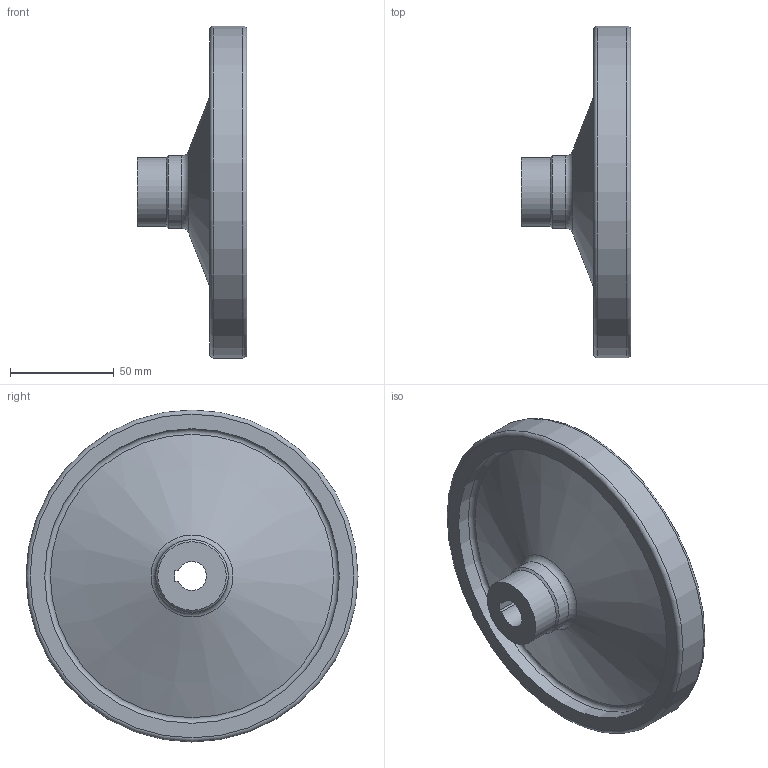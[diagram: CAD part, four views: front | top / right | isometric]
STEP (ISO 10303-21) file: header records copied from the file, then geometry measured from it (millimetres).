
FILE_DESCRIPTION( ( 'STEP AP203' ), '1' );
FILE_NAME( 'C:/Temp/Ganter_Step_05_03_2020/data/1_3/gn_321_5/gn_321_5_a/gn_321_5_a_zi/Safety handwheel GN 321.5-160-K14-A-ZI.stp', '2020-03-05T10:42:39', ( 'License CC BY-ND 4.0' ), ( 'CADENAS' ), ' ', 'PARTsolutions', ' ' );
FILE_SCHEMA( ( 'CONFIG_CONTROL_DESIGN' ) );
Length unit declared in the file: millimetre
Products named in the file (1): _Safety handwheel GN 321.5-160-K14-A-ZI
Bounding box: 53 x 160 x 160 mm (x, y, z)
Volume: 215382.2 mm3; surface area: 62137 mm2
Topology: 1 solids, 1 shells, 24 faces, 46 edges, 27 vertices
Faces by surface type: plane 8, cylinder 7, torus 5, cone 4
Full cylindrical faces by diameter (mm): 33 x2, 35 x1, 122 x1, 142 x1, 160 x1
Entity records: 576 total; most frequent: DIRECTION 102, CARTESIAN_POINT 83, ORIENTED_EDGE 62, AXIS2_PLACEMENT_3D 46, EDGE_LOOP 44, FACE_OUTER_BOUND 35, EDGE_CURVE 31, VERTEX_POINT 27
